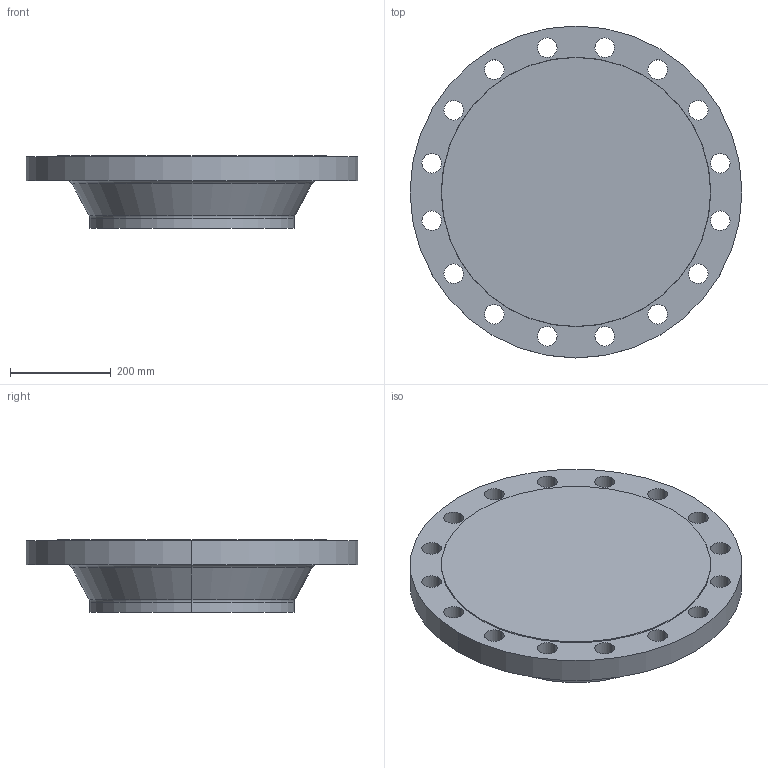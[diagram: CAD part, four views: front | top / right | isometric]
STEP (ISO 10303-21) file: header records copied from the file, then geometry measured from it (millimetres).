
FILE_DESCRIPTION (( 'STEP AP214' ), '1' );
FILE_NAME ('PN40 DN400 Type 21(ii) - Type B Face.STEP', '2019-01-05T23:11:52', ( '' ), ( '' ), 'SwSTEP 2.0', 'SolidWorks 2019', '' );
FILE_SCHEMA (( 'AUTOMOTIVE_DESIGN' ));
Length unit declared in the file: millimetre
Products named in the file (1): PN40 DN400 Type 21(ii) - Type B Face
Bounding box: 660 x 660 x 145 mm (x, y, z)
Volume: 30178660.2 mm3; surface area: 929769.9 mm2
Topology: 1 solids, 1 shells, 48 faces, 126 edges, 82 vertices
Faces by surface type: cylinder 36, torus 4, cone 4, plane 4
Entity records: 1626 total; most frequent: DIRECTION 310, CARTESIAN_POINT 257, ORIENTED_EDGE 252, AXIS2_PLACEMENT_3D 135, EDGE_CURVE 126, CIRCLE 86, VERTEX_POINT 82, EDGE_LOOP 82
